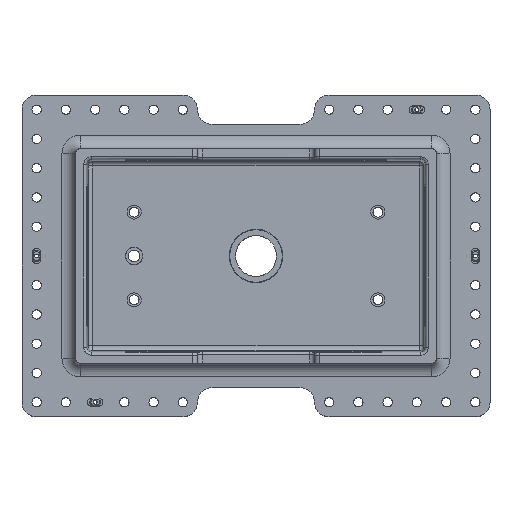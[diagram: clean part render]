
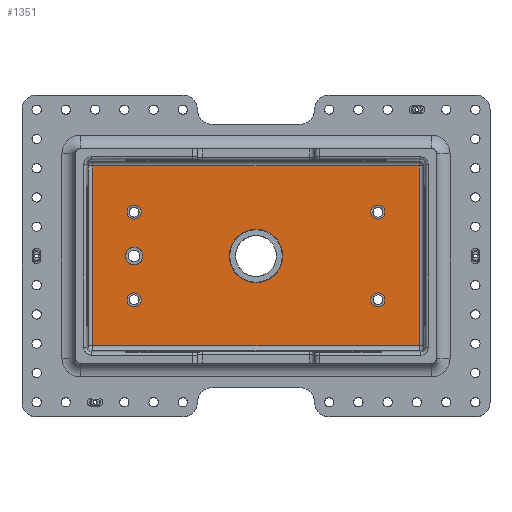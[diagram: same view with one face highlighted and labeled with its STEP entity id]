
A CAD part, top view. The second image highlights one B-rep face of the part: STEP entity #1351.
In plain terms, the highlighted planar face has unit normal (0, 0, 1).
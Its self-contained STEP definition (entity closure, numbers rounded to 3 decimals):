
#1351=ADVANCED_FACE('Pad.1',(#3203,#3204,#3205,#3206,#3207,#3208,#3209),#3210,.F.);
#3203=FACE_OUTER_BOUND('',#5825,.T.);
#3204=FACE_BOUND('',#5826,.T.);
#3205=FACE_BOUND('',#5827,.T.);
#3206=FACE_BOUND('',#5828,.T.);
#3207=FACE_BOUND('',#5829,.T.);
#3208=FACE_BOUND('',#5830,.T.);
#3209=FACE_BOUND('',#5831,.T.);
#3210=PLANE('',#5832);
#5825=EDGE_LOOP('',(#10321,#10322,#10323,#10324));
#5826=EDGE_LOOP('',(#10325,#10326,#10327,#10328));
#5827=EDGE_LOOP('',(#10329,#10330,#10331,#10332));
#5828=EDGE_LOOP('',(#10333,#10334,#10335,#10336));
#5829=EDGE_LOOP('',(#10337,#10338,#10339,#10340));
#5830=EDGE_LOOP('',(#10341,#10342,#10343,#10344));
#5831=EDGE_LOOP('',(#10345,#10346,#10347,#10348));
#5832=AXIS2_PLACEMENT_3D('',#10349,#10350,#10351);
#10321=ORIENTED_EDGE('',*,*,#16692,.F.);
#10322=ORIENTED_EDGE('',*,*,#16710,.F.);
#10323=ORIENTED_EDGE('',*,*,#16711,.F.);
#10324=ORIENTED_EDGE('',*,*,#16712,.F.);
#10325=ORIENTED_EDGE('',*,*,#16713,.T.);
#10326=ORIENTED_EDGE('',*,*,#16669,.T.);
#10327=ORIENTED_EDGE('',*,*,#16663,.T.);
#10328=ORIENTED_EDGE('',*,*,#16714,.T.);
#10329=ORIENTED_EDGE('',*,*,#16715,.T.);
#10330=ORIENTED_EDGE('',*,*,#16660,.T.);
#10331=ORIENTED_EDGE('',*,*,#16654,.T.);
#10332=ORIENTED_EDGE('',*,*,#16716,.T.);
#10333=ORIENTED_EDGE('',*,*,#16717,.T.);
#10334=ORIENTED_EDGE('',*,*,#16624,.T.);
#10335=ORIENTED_EDGE('',*,*,#16618,.T.);
#10336=ORIENTED_EDGE('',*,*,#16718,.T.);
#10337=ORIENTED_EDGE('',*,*,#16719,.T.);
#10338=ORIENTED_EDGE('',*,*,#16579,.T.);
#10339=ORIENTED_EDGE('',*,*,#16573,.T.);
#10340=ORIENTED_EDGE('',*,*,#16720,.T.);
#10341=ORIENTED_EDGE('',*,*,#16530,.F.);
#10342=ORIENTED_EDGE('',*,*,#16533,.F.);
#10343=ORIENTED_EDGE('',*,*,#16721,.F.);
#10344=ORIENTED_EDGE('',*,*,#16722,.F.);
#10345=ORIENTED_EDGE('',*,*,#16480,.F.);
#10346=ORIENTED_EDGE('',*,*,#16474,.F.);
#10347=ORIENTED_EDGE('',*,*,#16723,.F.);
#10348=ORIENTED_EDGE('',*,*,#16724,.F.);
#10349=CARTESIAN_POINT('',(0.0,0.0,24.0));
#10350=DIRECTION('',(0.0,0.0,-1.0));
#10351=DIRECTION('',(1.0,0.0,0.0));
#16474=EDGE_CURVE('',#19790,#19793,#19794,.F.);
#16480=EDGE_CURVE('',#19793,#19800,#19803,.F.);
#16530=EDGE_CURVE('',#19885,#19881,#19887,.T.);
#16533=EDGE_CURVE('',#19889,#19885,#19892,.T.);
#16573=EDGE_CURVE('',#19958,#19955,#19959,.T.);
#16579=EDGE_CURVE('',#19965,#19958,#19968,.T.);
#16618=EDGE_CURVE('',#20033,#20030,#20034,.T.);
#16624=EDGE_CURVE('',#20040,#20033,#20043,.T.);
#16654=EDGE_CURVE('',#20093,#20090,#20094,.T.);
#16660=EDGE_CURVE('',#20100,#20093,#20103,.T.);
#16663=EDGE_CURVE('',#20108,#20105,#20109,.T.);
#16669=EDGE_CURVE('',#20115,#20108,#20118,.T.);
#16692=EDGE_CURVE('',#20156,#20159,#20160,.F.);
#16710=EDGE_CURVE('',#20187,#20156,#20188,.T.);
#16711=EDGE_CURVE('',#20189,#20187,#20190,.F.);
#16712=EDGE_CURVE('',#20159,#20189,#20191,.T.);
#16713=EDGE_CURVE('',#20192,#20115,#20193,.T.);
#16714=EDGE_CURVE('',#20105,#20192,#20194,.T.);
#16715=EDGE_CURVE('',#20195,#20100,#20196,.T.);
#16716=EDGE_CURVE('',#20090,#20195,#20197,.T.);
#16717=EDGE_CURVE('',#20198,#20040,#20199,.T.);
#16718=EDGE_CURVE('',#20030,#20198,#20200,.T.);
#16719=EDGE_CURVE('',#20201,#19965,#20202,.T.);
#16720=EDGE_CURVE('',#19955,#20201,#20203,.T.);
#16721=EDGE_CURVE('',#20204,#19889,#20205,.T.);
#16722=EDGE_CURVE('',#19881,#20204,#20206,.T.);
#16723=EDGE_CURVE('',#20207,#19790,#20208,.F.);
#16724=EDGE_CURVE('',#19800,#20207,#20209,.F.);
#19790=VERTEX_POINT('',#24174);
#19793=VERTEX_POINT('',#24178);
#19794=CIRCLE('',#24179,9.0);
#19800=VERTEX_POINT('',#24186);
#19803=CIRCLE('',#24190,9.0);
#19881=VERTEX_POINT('',#24283);
#19885=VERTEX_POINT('',#24288);
#19887=CIRCLE('',#24291,27.5);
#19889=VERTEX_POINT('',#24293);
#19892=CIRCLE('',#24297,27.5);
#19955=VERTEX_POINT('',#24372);
#19958=VERTEX_POINT('',#24376);
#19959=CIRCLE('',#24377,7.188);
#19965=VERTEX_POINT('',#24384);
#19968=CIRCLE('',#24388,7.188);
#20030=VERTEX_POINT('',#24462);
#20033=VERTEX_POINT('',#24466);
#20034=CIRCLE('',#24467,7.188);
#20040=VERTEX_POINT('',#24474);
#20043=CIRCLE('',#24478,7.188);
#20090=VERTEX_POINT('',#24534);
#20093=VERTEX_POINT('',#24538);
#20094=CIRCLE('',#24539,7.188);
#20100=VERTEX_POINT('',#24546);
#20103=CIRCLE('',#24550,7.188);
#20105=VERTEX_POINT('',#24552);
#20108=VERTEX_POINT('',#24556);
#20109=CIRCLE('',#24557,7.188);
#20115=VERTEX_POINT('',#24564);
#20118=CIRCLE('',#24568,7.188);
#20156=VERTEX_POINT('',#24614);
#20159=VERTEX_POINT('',#24617);
#20160=LINE('',#24618,#24619);
#20187=VERTEX_POINT('',#24668);
#20188=LINE('',#24669,#24670);
#20189=VERTEX_POINT('',#24671);
#20190=LINE('',#24672,#24673);
#20191=LINE('',#24674,#24675);
#20192=VERTEX_POINT('',#24676);
#20193=CIRCLE('',#24677,7.188);
#20194=CIRCLE('',#24678,7.188);
#20195=VERTEX_POINT('',#24679);
#20196=CIRCLE('',#24680,7.188);
#20197=CIRCLE('',#24681,7.188);
#20198=VERTEX_POINT('',#24682);
#20199=CIRCLE('',#24683,7.188);
#20200=CIRCLE('',#24684,7.188);
#20201=VERTEX_POINT('',#24685);
#20202=CIRCLE('',#24686,7.188);
#20203=CIRCLE('',#24687,7.188);
#20204=VERTEX_POINT('',#24688);
#20205=CIRCLE('',#24689,27.5);
#20206=CIRCLE('',#24690,27.5);
#20207=VERTEX_POINT('',#24691);
#20208=CIRCLE('',#24692,9.0);
#20209=CIRCLE('',#24693,9.0);
#24174=CARTESIAN_POINT('',(-116.0,0.,24.0));
#24178=CARTESIAN_POINT('',(-132.898,4.315,24.0));
#24179=AXIS2_PLACEMENT_3D('',#29341,#29342,#29343);
#24186=CARTESIAN_POINT('',(-134.0,0.,24.0));
#24190=AXIS2_PLACEMENT_3D('',#29352,#29353,#29354);
#24283=CARTESIAN_POINT('',(27.5,0.,24.0));
#24288=CARTESIAN_POINT('',(-24.134,-13.184,24.0));
#24291=AXIS2_PLACEMENT_3D('',#29435,#29436,#29437);
#24293=CARTESIAN_POINT('',(-27.5,0.,24.0));
#24297=AXIS2_PLACEMENT_3D('',#29439,#29440,#29441);
#24372=CARTESIAN_POINT('',(132.188,-45.0,24.0));
#24376=CARTESIAN_POINT('',(118.692,-41.554,24.0));
#24377=AXIS2_PLACEMENT_3D('',#29506,#29507,#29508);
#24384=CARTESIAN_POINT('',(117.812,-45.0,24.0));
#24388=AXIS2_PLACEMENT_3D('',#29517,#29518,#29519);
#24462=CARTESIAN_POINT('',(-117.812,45.0,24.0));
#24466=CARTESIAN_POINT('',(-131.308,48.446,24.0));
#24467=AXIS2_PLACEMENT_3D('',#29581,#29582,#29583);
#24474=CARTESIAN_POINT('',(-132.188,45.0,24.0));
#24478=AXIS2_PLACEMENT_3D('',#29592,#29593,#29594);
#24534=CARTESIAN_POINT('',(-117.812,-45.0,24.0));
#24538=CARTESIAN_POINT('',(-131.308,-41.554,24.0));
#24539=AXIS2_PLACEMENT_3D('',#29641,#29642,#29643);
#24546=CARTESIAN_POINT('',(-132.188,-45.0,24.0));
#24550=AXIS2_PLACEMENT_3D('',#29652,#29653,#29654);
#24552=CARTESIAN_POINT('',(132.188,45.0,24.0));
#24556=CARTESIAN_POINT('',(118.692,48.446,24.0));
#24557=AXIS2_PLACEMENT_3D('',#29656,#29657,#29658);
#24564=CARTESIAN_POINT('',(117.812,45.0,24.0));
#24568=AXIS2_PLACEMENT_3D('',#29667,#29668,#29669);
#24614=CARTESIAN_POINT('',(167.299,92.299,24.0));
#24617=CARTESIAN_POINT('',(167.299,-92.299,24.0));
#24618=CARTESIAN_POINT('',(167.299,0.,24.0));
#24619=VECTOR('',#29705,1.0);
#24668=CARTESIAN_POINT('',(-167.299,92.299,24.0));
#24669=CARTESIAN_POINT('',(0.,92.299,24.0));
#24670=VECTOR('',#29727,1.0);
#24671=CARTESIAN_POINT('',(-167.299,-92.299,24.0));
#24672=CARTESIAN_POINT('',(-167.299,0.,24.0));
#24673=VECTOR('',#29728,1.0);
#24674=CARTESIAN_POINT('',(0.,-92.299,24.0));
#24675=VECTOR('',#29729,1.0);
#24676=CARTESIAN_POINT('',(131.308,41.554,24.0));
#24677=AXIS2_PLACEMENT_3D('',#29730,#29731,#29732);
#24678=AXIS2_PLACEMENT_3D('',#29733,#29734,#29735);
#24679=CARTESIAN_POINT('',(-118.692,-48.446,24.0));
#24680=AXIS2_PLACEMENT_3D('',#29736,#29737,#29738);
#24681=AXIS2_PLACEMENT_3D('',#29739,#29740,#29741);
#24682=CARTESIAN_POINT('',(-118.692,41.554,24.0));
#24683=AXIS2_PLACEMENT_3D('',#29742,#29743,#29744);
#24684=AXIS2_PLACEMENT_3D('',#29745,#29746,#29747);
#24685=CARTESIAN_POINT('',(131.308,-48.446,24.0));
#24686=AXIS2_PLACEMENT_3D('',#29748,#29749,#29750);
#24687=AXIS2_PLACEMENT_3D('',#29751,#29752,#29753);
#24688=CARTESIAN_POINT('',(24.134,13.184,24.0));
#24689=AXIS2_PLACEMENT_3D('',#29754,#29755,#29756);
#24690=AXIS2_PLACEMENT_3D('',#29757,#29758,#29759);
#24691=CARTESIAN_POINT('',(-117.102,-4.315,24.0));
#24692=AXIS2_PLACEMENT_3D('',#29760,#29761,#29762);
#24693=AXIS2_PLACEMENT_3D('',#29763,#29764,#29765);
#29341=CARTESIAN_POINT('',(-125.0,0.,24.0));
#29342=DIRECTION('',(0.0,0.0,-1.0));
#29343=DIRECTION('',(1.0,0.0,0.0));
#29352=CARTESIAN_POINT('',(-125.0,0.,24.0));
#29353=DIRECTION('',(0.0,0.0,-1.0));
#29354=DIRECTION('',(1.0,0.0,0.0));
#29435=CARTESIAN_POINT('',(0.0,0.0,24.0));
#29436=DIRECTION('',(0.0,0.0,1.0));
#29437=DIRECTION('',(1.0,0.0,0.0));
#29439=CARTESIAN_POINT('',(0.0,0.0,24.0));
#29440=DIRECTION('',(0.0,0.0,1.0));
#29441=DIRECTION('',(1.0,0.0,0.0));
#29506=CARTESIAN_POINT('',(125.0,-45.0,24.0));
#29507=DIRECTION('',(0.0,0.0,-1.0));
#29508=DIRECTION('',(1.0,0.0,0.0));
#29517=CARTESIAN_POINT('',(125.0,-45.0,24.0));
#29518=DIRECTION('',(0.0,0.0,-1.0));
#29519=DIRECTION('',(1.0,0.0,0.0));
#29581=CARTESIAN_POINT('',(-125.0,45.0,24.0));
#29582=DIRECTION('',(0.0,0.0,-1.0));
#29583=DIRECTION('',(1.0,0.0,0.0));
#29592=CARTESIAN_POINT('',(-125.0,45.0,24.0));
#29593=DIRECTION('',(0.0,0.0,-1.0));
#29594=DIRECTION('',(1.0,0.0,0.0));
#29641=CARTESIAN_POINT('',(-125.0,-45.0,24.0));
#29642=DIRECTION('',(0.0,0.0,-1.0));
#29643=DIRECTION('',(1.0,0.0,0.0));
#29652=CARTESIAN_POINT('',(-125.0,-45.0,24.0));
#29653=DIRECTION('',(0.0,0.0,-1.0));
#29654=DIRECTION('',(1.0,0.0,0.0));
#29656=CARTESIAN_POINT('',(125.0,45.0,24.0));
#29657=DIRECTION('',(0.0,0.0,-1.0));
#29658=DIRECTION('',(1.0,0.0,0.0));
#29667=CARTESIAN_POINT('',(125.0,45.0,24.0));
#29668=DIRECTION('',(0.0,0.0,-1.0));
#29669=DIRECTION('',(1.0,0.0,0.0));
#29705=DIRECTION('',(0.0,1.0,0.0));
#29727=DIRECTION('',(1.0,0.0,0.0));
#29728=DIRECTION('',(0.0,-1.0,0.0));
#29729=DIRECTION('',(-1.0,0.0,0.0));
#29730=CARTESIAN_POINT('',(125.0,45.0,24.0));
#29731=DIRECTION('',(0.0,0.0,-1.0));
#29732=DIRECTION('',(1.0,0.0,0.0));
#29733=CARTESIAN_POINT('',(125.0,45.0,24.0));
#29734=DIRECTION('',(0.0,0.0,-1.0));
#29735=DIRECTION('',(1.0,0.0,0.0));
#29736=CARTESIAN_POINT('',(-125.0,-45.0,24.0));
#29737=DIRECTION('',(0.0,0.0,-1.0));
#29738=DIRECTION('',(1.0,0.0,0.0));
#29739=CARTESIAN_POINT('',(-125.0,-45.0,24.0));
#29740=DIRECTION('',(0.0,0.0,-1.0));
#29741=DIRECTION('',(1.0,0.0,0.0));
#29742=CARTESIAN_POINT('',(-125.0,45.0,24.0));
#29743=DIRECTION('',(0.0,0.0,-1.0));
#29744=DIRECTION('',(1.0,0.0,0.0));
#29745=CARTESIAN_POINT('',(-125.0,45.0,24.0));
#29746=DIRECTION('',(0.0,0.0,-1.0));
#29747=DIRECTION('',(1.0,0.0,0.0));
#29748=CARTESIAN_POINT('',(125.0,-45.0,24.0));
#29749=DIRECTION('',(0.0,0.0,-1.0));
#29750=DIRECTION('',(1.0,0.0,0.0));
#29751=CARTESIAN_POINT('',(125.0,-45.0,24.0));
#29752=DIRECTION('',(0.0,0.0,-1.0));
#29753=DIRECTION('',(1.0,0.0,0.0));
#29754=CARTESIAN_POINT('',(0.0,0.0,24.0));
#29755=DIRECTION('',(0.0,0.0,1.0));
#29756=DIRECTION('',(1.0,0.0,0.0));
#29757=CARTESIAN_POINT('',(0.0,0.0,24.0));
#29758=DIRECTION('',(0.0,0.0,1.0));
#29759=DIRECTION('',(1.0,0.0,0.0));
#29760=CARTESIAN_POINT('',(-125.0,0.,24.0));
#29761=DIRECTION('',(0.0,0.0,-1.0));
#29762=DIRECTION('',(1.0,0.0,0.0));
#29763=CARTESIAN_POINT('',(-125.0,0.,24.0));
#29764=DIRECTION('',(0.0,0.0,-1.0));
#29765=DIRECTION('',(1.0,0.0,0.0));
